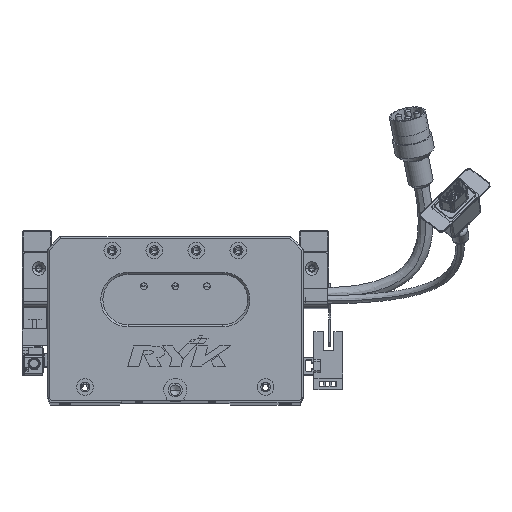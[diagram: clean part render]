
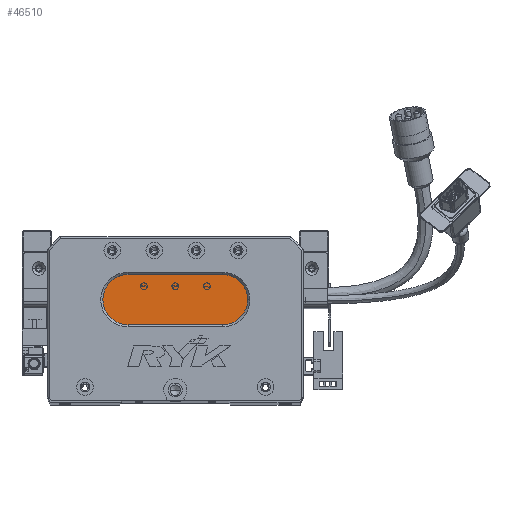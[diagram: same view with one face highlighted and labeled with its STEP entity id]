
A CAD part, top view. The second image highlights one B-rep face of the part: STEP entity #46510.
In plain terms, the highlighted planar face has unit normal (0, 0, 1) as drawn and (0, 0, -1) by its records, which use the part's own axes.
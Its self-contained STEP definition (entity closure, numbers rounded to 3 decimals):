
#416 = CARTESIAN_POINT ( 'NONE',  ( 83.5, 48., 13. ) ) ;
#1150 = VECTOR ( 'NONE', #43572, 1000. ) ;
#3961 = CARTESIAN_POINT ( 'NONE',  ( 83.5, 60., 13. ) ) ;
#7840 = DIRECTION ( 'NONE',  ( -1., 0., 0. ) ) ;
#7920 = VECTOR ( 'NONE', #71546, 1000. ) ;
#8111 = DIRECTION ( 'NONE',  ( 0., 0., -1. ) ) ;
#9708 = VERTEX_POINT ( 'NONE', #74156 ) ;
#15476 = LINE ( 'NONE', #65500, #7920 ) ;
#17617 = DIRECTION ( 'NONE',  ( 0., 0., -1. ) ) ;
#17653 = ORIENTED_EDGE ( 'NONE', *, *, #69217, .T. ) ;
#19462 = EDGE_CURVE ( 'NONE', #38022, #9708, #15476, .T. ) ;
#20746 = FACE_OUTER_BOUND ( 'NONE', #74248, .T. ) ;
#26182 = CARTESIAN_POINT ( 'NONE',  ( 83.5, 60., 13. ) ) ;
#26753 = AXIS2_PLACEMENT_3D ( 'NONE', #32762, #26954, #68637 ) ;
#26954 = DIRECTION ( 'NONE',  ( 0., 0., -1. ) ) ;
#29094 = VERTEX_POINT ( 'NONE', #3961 ) ;
#29433 = DIRECTION ( 'NONE',  ( 0., 0., -1. ) ) ;
#31080 = CIRCLE ( 'NONE', #26753, 12. ) ;
#32762 = CARTESIAN_POINT ( 'NONE',  ( 83.5, 48., 13. ) ) ;
#35659 = EDGE_CURVE ( 'NONE', #60432, #39734, #49861, .T. ) ;
#36512 = PLANE ( 'NONE',  #66801 ) ;
#38022 = VERTEX_POINT ( 'NONE', #47682 ) ;
#39734 = VERTEX_POINT ( 'NONE', #72381 ) ;
#43143 = ORIENTED_EDGE ( 'NONE', *, *, #19462, .T. ) ;
#43572 = DIRECTION ( 'NONE',  ( 1., 0., 0. ) ) ;
#44074 = AXIS2_PLACEMENT_3D ( 'NONE', #58734, #17617, #59784 ) ;
#44359 = ORIENTED_EDGE ( 'NONE', *, *, #51983, .T. ) ;
#46510 = ADVANCED_FACE ( 'NONE', ( #20746 ), #36512, .T. ) ;
#47409 = AXIS2_PLACEMENT_3D ( 'NONE', #62412, #8111, #7840 ) ;
#47682 = CARTESIAN_POINT ( 'NONE',  ( 83.5, 36., 13. ) ) ;
#49861 = CIRCLE ( 'NONE', #44074, 12. ) ;
#50522 = EDGE_CURVE ( 'NONE', #39734, #29094, #77554, .T. ) ;
#51828 = CARTESIAN_POINT ( 'NONE',  ( 26.5, 48., 13. ) ) ;
#51983 = EDGE_CURVE ( 'NONE', #29094, #38022, #31080, .T. ) ;
#58734 = CARTESIAN_POINT ( 'NONE',  ( 38.5, 48., 13. ) ) ;
#59431 = ORIENTED_EDGE ( 'NONE', *, *, #50522, .T. ) ;
#59784 = DIRECTION ( 'NONE',  ( -1., 0., 0. ) ) ;
#60432 = VERTEX_POINT ( 'NONE', #51828 ) ;
#62412 = CARTESIAN_POINT ( 'NONE',  ( 38.5, 48., 13. ) ) ;
#65300 = ORIENTED_EDGE ( 'NONE', *, *, #35659, .T. ) ;
#65500 = CARTESIAN_POINT ( 'NONE',  ( 83.5, 36., 13. ) ) ;
#66801 = AXIS2_PLACEMENT_3D ( 'NONE', #416, #29433, #72135 ) ;
#68637 = DIRECTION ( 'NONE',  ( -1., 0., 0. ) ) ;
#69217 = EDGE_CURVE ( 'NONE', #9708, #60432, #76848, .T. ) ;
#71546 = DIRECTION ( 'NONE',  ( -1., 0., 0. ) ) ;
#72135 = DIRECTION ( 'NONE',  ( -1., 0., 0. ) ) ;
#72381 = CARTESIAN_POINT ( 'NONE',  ( 38.5, 60., 13. ) ) ;
#74156 = CARTESIAN_POINT ( 'NONE',  ( 38.5, 36., 13. ) ) ;
#74248 = EDGE_LOOP ( 'NONE', ( #44359, #43143, #17653, #65300, #59431 ) ) ;
#76848 = CIRCLE ( 'NONE', #47409, 12. ) ;
#77554 = LINE ( 'NONE', #26182, #1150 ) ;
